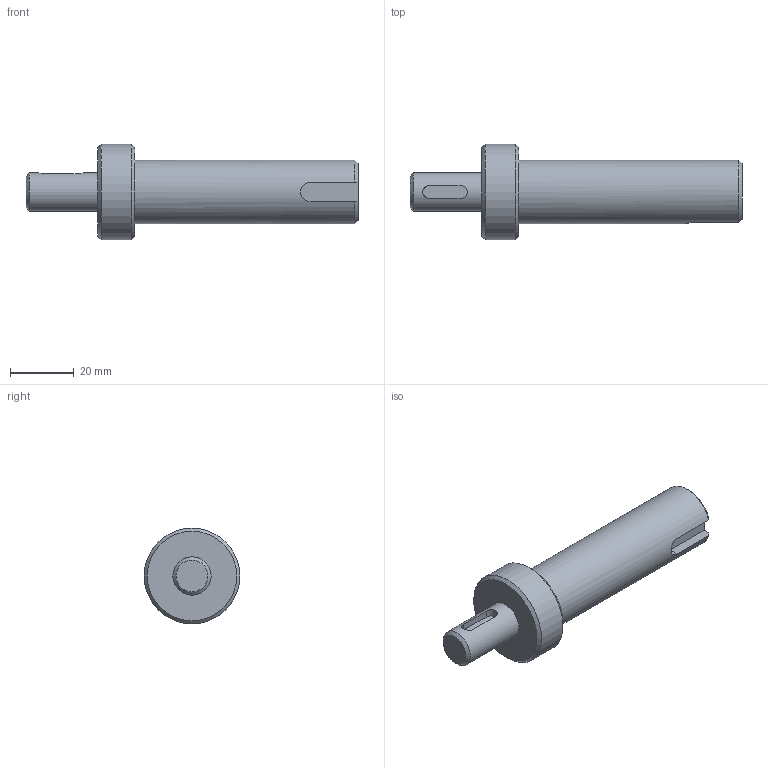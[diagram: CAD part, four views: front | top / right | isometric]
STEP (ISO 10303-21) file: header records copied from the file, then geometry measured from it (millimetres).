
FILE_DESCRIPTION(/* description */ (''),/* implementation_level */ '2;1');
FILE_NAME(/* name */ '',/* time_stamp */ '2024-08-02T13:16:01+09:00',/* author */ ('jhkim'),/* organization */ (''),/* preprocessor_version */ 'ST-DEVELOPER v20',/* originating_system */ 'Autodesk Inventor 2025',/* authorisation */ '');
FILE_SCHEMA (('AUTOMOTIVE_DESIGN { 1 0 10303 214 3 1 1 }'));
Length unit declared in the file: millimetre
Products named in the file (1): 메인축
Bounding box: 104 x 30 x 30 mm (x, y, z)
Volume: 32054.6 mm3; surface area: 7744.1 mm2
Topology: 1 solids, 1 shells, 20 faces, 48 edges, 33 vertices
Faces by surface type: plane 10, cylinder 6, cone 4
Full cylindrical faces by diameter (mm): 12 x1, 20 x1, 30 x1
Entity records: 676 total; most frequent: CARTESIAN_POINT 160, DIRECTION 99, ORIENTED_EDGE 96, EDGE_CURVE 48, AXIS2_PLACEMENT_3D 38, VERTEX_POINT 33, EDGE_LOOP 23, LINE 23
